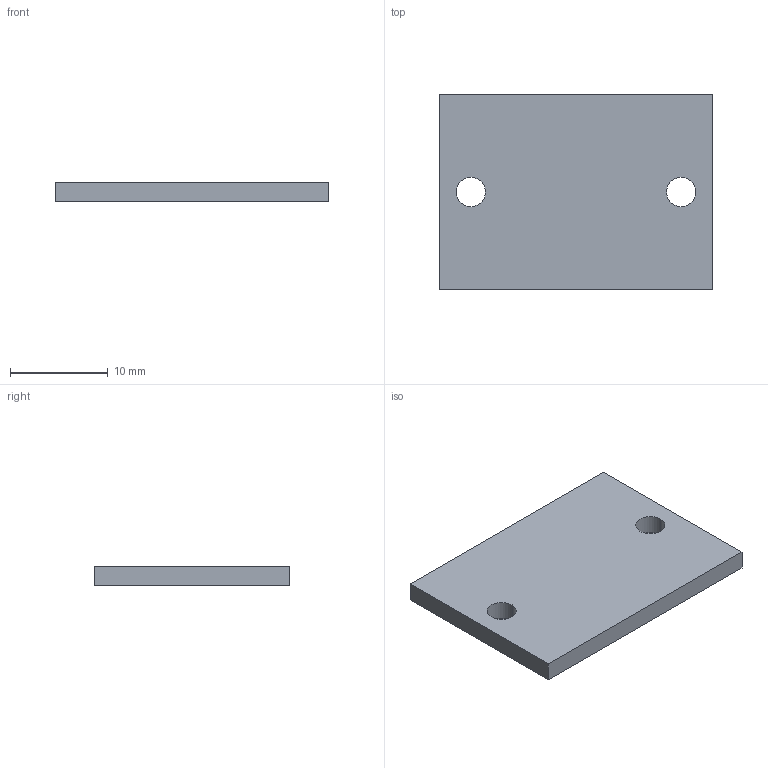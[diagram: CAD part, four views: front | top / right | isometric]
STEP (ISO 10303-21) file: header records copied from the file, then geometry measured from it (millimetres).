
FILE_DESCRIPTION (( 'STEP AP203' ), '1' );
FILE_NAME ('POTENTIOMETER_COVER.STEP', '2021-09-09T14:26:36', ( '' ), ( '' ), 'SwSTEP 2.0', 'SolidWorks 2020', '' );
FILE_SCHEMA (( 'CONFIG_CONTROL_DESIGN' ));
Length unit declared in the file: millimetre
Products named in the file (1): POTENTIOMETER_COVER
Bounding box: 28 x 20 x 2 mm (x, y, z)
Volume: 1091.7 mm3; surface area: 1321.4 mm2
Topology: 1 solids, 1 shells, 10 faces, 24 edges, 16 vertices
Faces by surface type: plane 6, cylinder 4
Entity records: 381 total; most frequent: DIRECTION 54, CARTESIAN_POINT 51, ORIENTED_EDGE 48, EDGE_CURVE 24, AXIS2_PLACEMENT_3D 19, LINE 16, VERTEX_POINT 16, VECTOR 16
